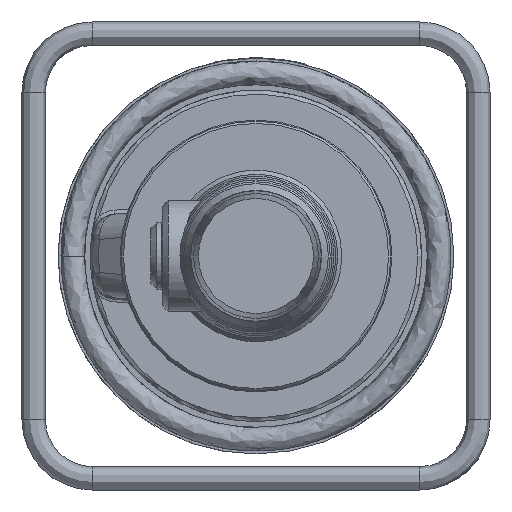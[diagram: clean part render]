
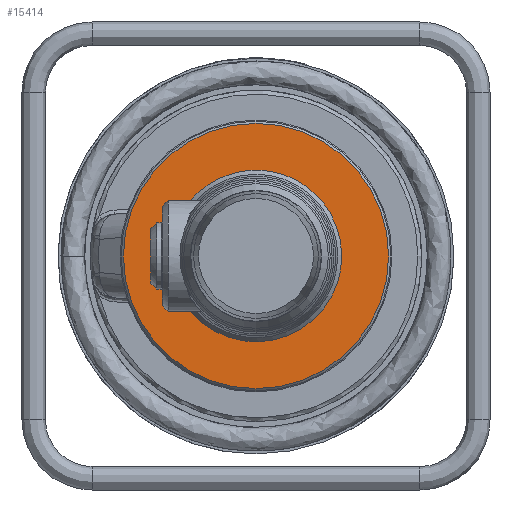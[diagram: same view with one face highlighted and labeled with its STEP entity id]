
A CAD part, left-side view. The second image highlights one B-rep face of the part: STEP entity #15414.
In plain terms, the highlighted planar face has unit normal (-1, 0, 0).
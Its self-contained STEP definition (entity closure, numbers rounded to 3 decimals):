
#301=FACE_BOUND('',#4090,.T.);
#1049=B_SPLINE_CURVE_WITH_KNOTS('',3,(#32600,#32601,#32602,#32603,#32604,
#32605,#32606,#32607,#32608,#32609,#32610,#32611,#32612,#32613,#32614,#32615,
#32616,#32617,#32618,#32619,#32620,#32621,#32622,#32623,#32624,#32625),
 .UNSPECIFIED.,.F.,.F.,(4,2,2,2,2,2,2,2,2,2,2,2,4),(-9.637,-9.63,
-9.622,-9.603,-9.551,-9.384,
-8.87,-7.81,-6.371,-4.874,
-3.299,-1.673,0.),.UNSPECIFIED.);
#1812=CIRCLE('',#16424,68.);
#1813=CIRCLE('',#16425,40.75);
#2256=PLANE('',#16423);
#3040=FACE_OUTER_BOUND('',#4089,.T.);
#4089=EDGE_LOOP('',(#13751));
#4090=EDGE_LOOP('',(#13752,#13753,#13754));
#5261=LINE('',#32598,#6144);
#6144=VECTOR('',#19282,1.668);
#7477=VERTEX_POINT('',#32594);
#7478=VERTEX_POINT('',#32596);
#7479=VERTEX_POINT('',#32597);
#7480=VERTEX_POINT('',#32599);
#9597=EDGE_CURVE('',#7477,#7477,#1812,.T.);
#9598=EDGE_CURVE('',#7478,#7479,#5261,.T.);
#9599=EDGE_CURVE('',#7480,#7478,#1049,.T.);
#9600=EDGE_CURVE('',#7480,#7479,#1813,.T.);
#13751=ORIENTED_EDGE('',*,*,#9597,.F.);
#13752=ORIENTED_EDGE('',*,*,#9598,.F.);
#13753=ORIENTED_EDGE('',*,*,#9599,.F.);
#13754=ORIENTED_EDGE('',*,*,#9600,.T.);
#15414=ADVANCED_FACE('',(#3040,#301),#2256,.T.);
#16423=AXIS2_PLACEMENT_3D('',#32593,#19278,#19279);
#16424=AXIS2_PLACEMENT_3D('',#32595,#19280,#19281);
#16425=AXIS2_PLACEMENT_3D('',#32626,#19283,#19284);
#19278=DIRECTION('center_axis',(-1.,0.,0.));
#19279=DIRECTION('ref_axis',(0.,-1.,0.));
#19280=DIRECTION('center_axis',(1.,0.,0.));
#19281=DIRECTION('ref_axis',(0.,0.,
-1.));
#19282=DIRECTION('',(0.,0.951,-0.309));
#19283=DIRECTION('center_axis',(1.,0.,0.));
#19284=DIRECTION('ref_axis',(0.,0.,
-1.));
#32593=CARTESIAN_POINT('Origin',(-128.,0.,-55.5));
#32594=CARTESIAN_POINT('',(-128.,0.,-68.));
#32595=CARTESIAN_POINT('Origin',(-128.,0.,0.));
#32596=CARTESIAN_POINT('',(-128.,-40.342,13.108));
#32597=CARTESIAN_POINT('',(-128.,-38.756,12.592));
#32598=CARTESIAN_POINT('',(-128.,-11.266,3.661));
#32599=CARTESIAN_POINT('',(-128.,6.525,-40.224));
#32600=CARTESIAN_POINT('Ctrl Pts',(-128.,6.525,-40.224));
#32601=CARTESIAN_POINT('Ctrl Pts',(-128.,6.526,-40.229));
#32602=CARTESIAN_POINT('Ctrl Pts',(-128.,6.526,-40.234));
#32603=CARTESIAN_POINT('Ctrl Pts',(-128.,6.524,-40.245));
#32604=CARTESIAN_POINT('Ctrl Pts',(-128.,6.523,-40.25));
#32605=CARTESIAN_POINT('Ctrl Pts',(-128.,6.515,-40.268));
#32606=CARTESIAN_POINT('Ctrl Pts',(-128.,6.507,-40.279));
#32607=CARTESIAN_POINT('Ctrl Pts',(-128.,6.472,-40.317));
#32608=CARTESIAN_POINT('Ctrl Pts',(-128.,6.433,-40.344));
#32609=CARTESIAN_POINT('Ctrl Pts',(-128.,6.276,-40.437));
#32610=CARTESIAN_POINT('Ctrl Pts',(-128.,6.099,-40.505));
#32611=CARTESIAN_POINT('Ctrl Pts',(-128.,5.564,-40.695));
#32612=CARTESIAN_POINT('Ctrl Pts',(-128.,4.963,-40.856));
#32613=CARTESIAN_POINT('Ctrl Pts',(-128.,2.674,-41.317));
#32614=CARTESIAN_POINT('Ctrl Pts',(-128.,0.244,-41.635));
#32615=CARTESIAN_POINT('Ctrl Pts',(-128.,-6.94,-41.468));
#32616=CARTESIAN_POINT('Ctrl Pts',(-128.,-11.399,-40.675));
#32617=CARTESIAN_POINT('Ctrl Pts',(-128.,-20.537,
-37.191));
#32618=CARTESIAN_POINT('Ctrl Pts',(-128.,-24.833,
-34.57));
#32619=CARTESIAN_POINT('Ctrl Pts',(-128.,-32.474,
-27.759));
#32620=CARTESIAN_POINT('Ctrl Pts',(-128.,-35.695,
-23.552));
#32621=CARTESIAN_POINT('Ctrl Pts',(-128.,-40.483,
-14.015));
#32622=CARTESIAN_POINT('Ctrl Pts',(-128.,-41.949,
-8.738));
#32623=CARTESIAN_POINT('Ctrl Pts',(-128.,-42.796,
2.228));
#32624=CARTESIAN_POINT('Ctrl Pts',(-128.,-42.109,7.82));
#32625=CARTESIAN_POINT('Ctrl Pts',(-128.,-40.342,13.108));
#32626=CARTESIAN_POINT('Origin',(-128.,0.,
0.));
